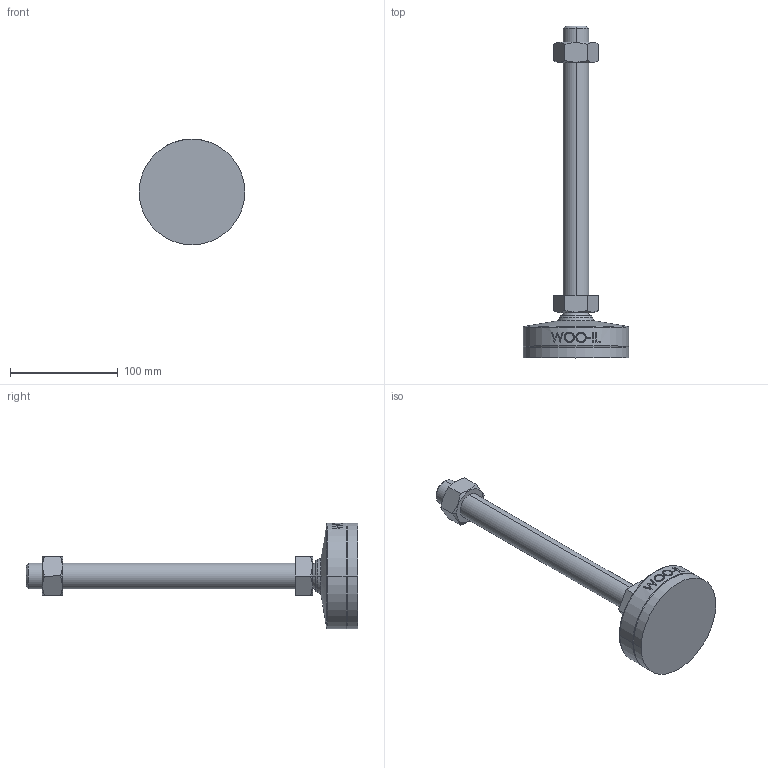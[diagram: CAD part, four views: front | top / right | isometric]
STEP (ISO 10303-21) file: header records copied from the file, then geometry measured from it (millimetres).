
FILE_DESCRIPTION (( 'STEP AP214' ), '1' );
FILE_NAME ('MFNR98-M24-250.step', '2021-02-22T09:09:34', ( '' ), ( '' ), 'SwSTEP 2.0', 'SolidWorks 2019', '' );
FILE_SCHEMA (( 'AUTOMOTIVE_DESIGN' ));
Length unit declared in the file: millimetre
Products named in the file (2): MFNR98-M24-250
Bounding box: 98 x 308 x 98 mm (x, y, z)
Volume: 386587.3 mm3; surface area: 52036.1 mm2
Topology: 2 solids, 2 shells, 103 faces, 239 edges, 152 vertices
Faces by surface type: plane 47, cone 18, cylinder 16, bspline 16, torus 4, sphere 2
Entity records: 4543 total; most frequent: CARTESIAN_POINT 2264, ORIENTED_EDGE 478, DIRECTION 423, EDGE_CURVE 239, AXIS2_PLACEMENT_3D 161, VERTEX_POINT 152, EDGE_LOOP 117, FACE_OUTER_BOUND 103
